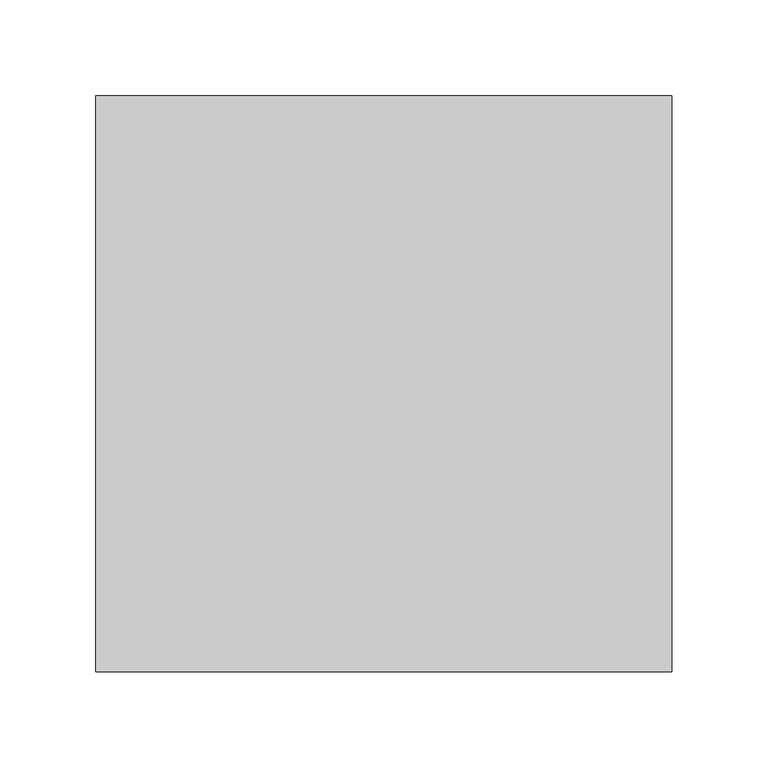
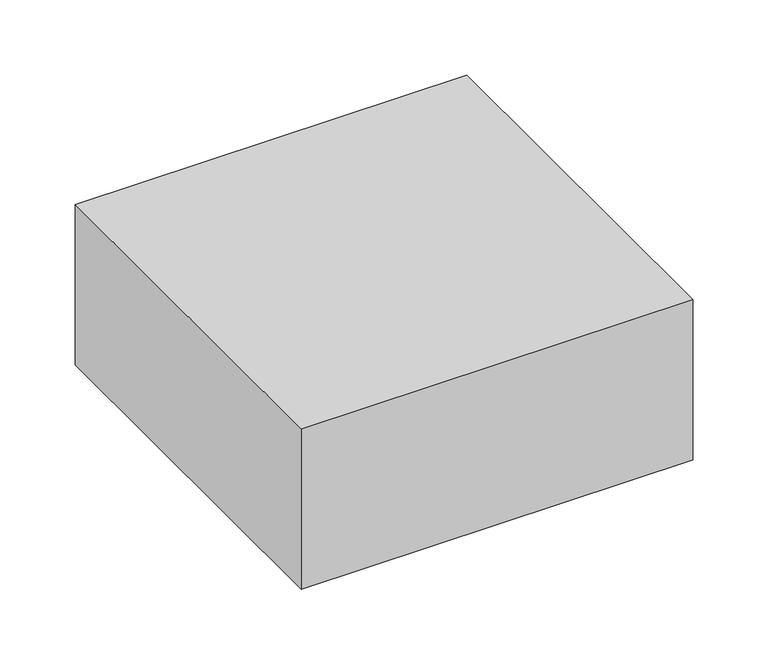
"""IFC4 building model written with IfcOpenShell, lengths in millimetres: proxy geometry, ▲GM_Зона обслуживания : Тип."""

from ifc_helpers import new_model, si_unit, origin, origin_with_axes, place, context, project, spatial, polyline, outline, extrude, source, transform, mapped, element, save


def generic_models_17a604cc(model_context):
    return source(origin(), model_context, "Body", "SweptSolid", [
        extrude(outline(polyline([(300.0, -300.0), (0.0, -300.0), (0.0, 0.0), (300.0, 0.0), (300.0, -300.0)])), origin_with_axes(), (0.0, 0.0, 1.0), 130.0),
    ])


if __name__ == "__main__":
    model = new_model("IFC4")
    model_context = context("Model", 3, world=origin())
    ifc_project = project(units=[si_unit("LENGTHUNIT", "METRE", prefix="MILLI")], contexts=[model_context])
    site = spatial("IfcSite", under=ifc_project)
    building = spatial("IfcBuilding", under=site)
    placement = place(None, origin())
    generic_models_shape = generic_models_17a604cc(model_context)
    element("IfcBuildingElementProxy", 1, Name="▲GM_Зона обслуживания : Тип", ObjectType="▲GM_Зона обслуживания : Тип", at=placement, inside=building, context=model_context, shape_type="MappedRepresentation", body=[
        mapped(generic_models_shape, transform((0.0, 0.0, 0.0), x_axis=(1.0, 0.0, 0.0), y_axis=(0.0, 1.0, 0.0), z_axis=(0.0, 0.0, 1.0))),
    ])
    save(model, "model.ifc")
